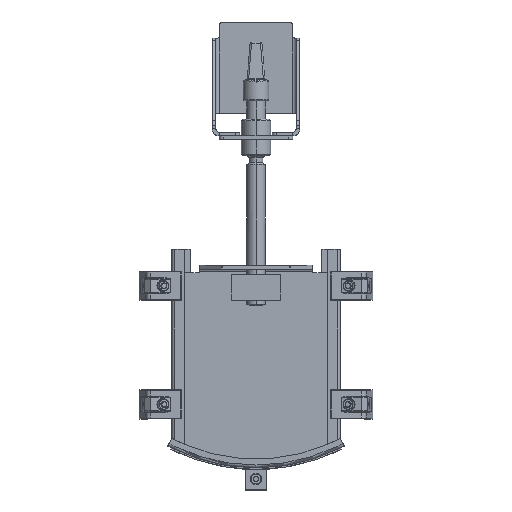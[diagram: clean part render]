
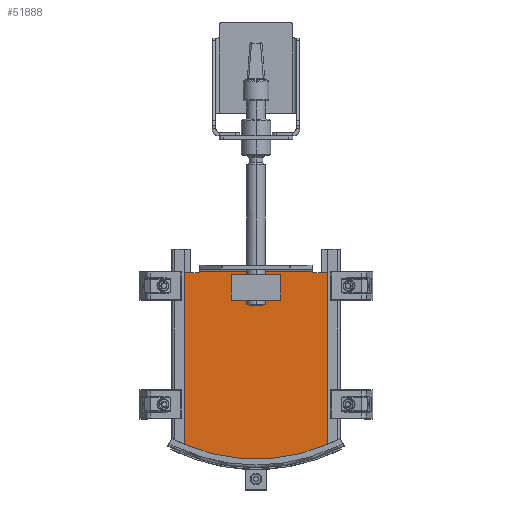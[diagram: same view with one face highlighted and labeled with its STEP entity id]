
A CAD part, top view. The second image highlights one B-rep face of the part: STEP entity #51888.
In plain terms, the highlighted planar face has unit normal (0, 0, 1).
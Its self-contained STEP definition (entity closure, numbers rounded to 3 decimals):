
#1576 = VECTOR ( 'NONE', #30494, 1000. ) ;
#1692 = CARTESIAN_POINT ( 'NONE',  ( -97.95, 20.432, 33. ) ) ;
#2342 = CARTESIAN_POINT ( 'NONE',  ( 79., 255., 33. ) ) ;
#2870 = VECTOR ( 'NONE', #34354, 1000. ) ;
#3950 = AXIS2_PLACEMENT_3D ( 'NONE', #37247, #8624, #20285 ) ;
#4101 = AXIS2_PLACEMENT_3D ( 'NONE', #44473, #19209, #36182 ) ;
#4748 = CARTESIAN_POINT ( 'NONE',  ( 34., 252.5, 33. ) ) ;
#5162 = VERTEX_POINT ( 'NONE', #2342 ) ;
#5836 = LINE ( 'NONE', #17994, #43103 ) ;
#6379 = LINE ( 'NONE', #36059, #33499 ) ;
#7123 = VERTEX_POINT ( 'NONE', #29259 ) ;
#7454 = DIRECTION ( 'NONE',  ( 0., 0., -1. ) ) ;
#8572 = ORIENTED_EDGE ( 'NONE', *, *, #29773, .T. ) ;
#8624 = DIRECTION ( 'NONE',  ( 0., 0., 1. ) ) ;
#9012 = ORIENTED_EDGE ( 'NONE', *, *, #29706, .T. ) ;
#9490 = DIRECTION ( 'NONE',  ( 0., -1., 0. ) ) ;
#9756 = LINE ( 'NONE', #25555, #40378 ) ;
#10411 = LINE ( 'NONE', #41214, #47774 ) ;
#10517 = EDGE_CURVE ( 'NONE', #26539, #23869, #29955, .T. ) ;
#10713 = EDGE_CURVE ( 'NONE', #34742, #26539, #6379, .T. ) ;
#11028 = VERTEX_POINT ( 'NONE', #35920 ) ;
#11040 = EDGE_LOOP ( 'NONE', ( #50951, #44176, #44815, #23680 ) ) ;
#11878 = DIRECTION ( 'NONE',  ( 0., 0., -1. ) ) ;
#15300 = FACE_OUTER_BOUND ( 'NONE', #48183, .T. ) ;
#15943 = VECTOR ( 'NONE', #41522, 1000. ) ;
#16713 = CARTESIAN_POINT ( 'NONE',  ( -79., 255., 33. ) ) ;
#17994 = CARTESIAN_POINT ( 'NONE',  ( 98.172, 255., 33. ) ) ;
#18341 = LINE ( 'NONE', #48022, #27589 ) ;
#18900 = FACE_BOUND ( 'NONE', #11040, .T. ) ;
#19209 = DIRECTION ( 'NONE',  ( 0., 0., 1. ) ) ;
#20285 = DIRECTION ( 'NONE',  ( 1., 0., 0. ) ) ;
#20891 = ORIENTED_EDGE ( 'NONE', *, *, #54425, .T. ) ;
#21155 = EDGE_CURVE ( 'NONE', #5162, #41817, #21691, .T. ) ;
#21292 = LINE ( 'NONE', #46298, #2870 ) ;
#21691 = CIRCLE ( 'NONE', #32387, 2. ) ;
#23680 = ORIENTED_EDGE ( 'NONE', *, *, #10713, .F. ) ;
#23869 = VERTEX_POINT ( 'NONE', #50433 ) ;
#23876 = CARTESIAN_POINT ( 'NONE',  ( -34., 252.5, 33. ) ) ;
#23881 = CARTESIAN_POINT ( 'NONE',  ( 97.95, 20.432, 33. ) ) ;
#24225 = EDGE_CURVE ( 'NONE', #43888, #34742, #10411, .T. ) ;
#25555 = CARTESIAN_POINT ( 'NONE',  ( 97.95, 25.856, 33. ) ) ;
#25615 = EDGE_CURVE ( 'NONE', #42391, #50273, #44350, .T. ) ;
#25817 = CARTESIAN_POINT ( 'NONE',  ( -34., 252.5, 33. ) ) ;
#26099 = CARTESIAN_POINT ( 'NONE',  ( 77., 257., 33. ) ) ;
#26539 = VERTEX_POINT ( 'NONE', #28735 ) ;
#27589 = VECTOR ( 'NONE', #51333, 1000. ) ;
#28735 = CARTESIAN_POINT ( 'NONE',  ( 34., 217.5, 33. ) ) ;
#29259 = CARTESIAN_POINT ( 'NONE',  ( 97.95, 255., 33. ) ) ;
#29285 = DIRECTION ( 'NONE',  ( 1., 0., 0. ) ) ;
#29654 = CARTESIAN_POINT ( 'NONE',  ( 79., 257., 33. ) ) ;
#29706 = EDGE_CURVE ( 'NONE', #50273, #11028, #31183, .T. ) ;
#29773 = EDGE_CURVE ( 'NONE', #46643, #39068, #36880, .T. ) ;
#29955 = LINE ( 'NONE', #4748, #1576 ) ;
#30494 = DIRECTION ( 'NONE',  ( 0., 1., 0. ) ) ;
#31183 = LINE ( 'NONE', #31468, #45673 ) ;
#31468 = CARTESIAN_POINT ( 'NONE',  ( -98.172, 255., 33. ) ) ;
#31788 = ORIENTED_EDGE ( 'NONE', *, *, #21155, .T. ) ;
#32387 = AXIS2_PLACEMENT_3D ( 'NONE', #29654, #11878, #41624 ) ;
#33499 = VECTOR ( 'NONE', #29285, 1000. ) ;
#33725 = CARTESIAN_POINT ( 'NONE',  ( -34., 217.5, 33. ) ) ;
#33753 = ORIENTED_EDGE ( 'NONE', *, *, #42729, .F. ) ;
#34354 = DIRECTION ( 'NONE',  ( 1., 0., 0. ) ) ;
#34742 = VERTEX_POINT ( 'NONE', #33725 ) ;
#35871 = PLANE ( 'NONE',  #3950 ) ;
#35920 = CARTESIAN_POINT ( 'NONE',  ( -97.95, 255., 33. ) ) ;
#36059 = CARTESIAN_POINT ( 'NONE',  ( -34., 217.5, 33. ) ) ;
#36182 = DIRECTION ( 'NONE',  ( 1., 0., 0. ) ) ;
#36509 = EDGE_CURVE ( 'NONE', #23869, #43888, #54201, .T. ) ;
#36880 = CIRCLE ( 'NONE', #4101, 245. ) ;
#37247 = CARTESIAN_POINT ( 'NONE',  ( -105., 25.856, 33. ) ) ;
#39068 = VERTEX_POINT ( 'NONE', #23881 ) ;
#40378 = VECTOR ( 'NONE', #9490, 1000. ) ;
#41214 = CARTESIAN_POINT ( 'NONE',  ( -34., 252.5, 33. ) ) ;
#41522 = DIRECTION ( 'NONE',  ( -1., 0., 0. ) ) ;
#41624 = DIRECTION ( 'NONE',  ( 1., 0., 0. ) ) ;
#41817 = VERTEX_POINT ( 'NONE', #26099 ) ;
#42357 = DIRECTION ( 'NONE',  ( 1., 0., 0. ) ) ;
#42391 = VERTEX_POINT ( 'NONE', #43962 ) ;
#42729 = EDGE_CURVE ( 'NONE', #7123, #39068, #9756, .T. ) ;
#43103 = VECTOR ( 'NONE', #43253, 1000. ) ;
#43253 = DIRECTION ( 'NONE',  ( -1., 0., 0. ) ) ;
#43372 = DIRECTION ( 'NONE',  ( -1., 0., 0. ) ) ;
#43888 = VERTEX_POINT ( 'NONE', #23876 ) ;
#43962 = CARTESIAN_POINT ( 'NONE',  ( -77., 257., 33. ) ) ;
#44176 = ORIENTED_EDGE ( 'NONE', *, *, #36509, .F. ) ;
#44350 = CIRCLE ( 'NONE', #51385, 2. ) ;
#44473 = CARTESIAN_POINT ( 'NONE',  ( 0., 245., 33. ) ) ;
#44815 = ORIENTED_EDGE ( 'NONE', *, *, #10517, .F. ) ;
#45437 = CARTESIAN_POINT ( 'NONE',  ( -79., 257., 33. ) ) ;
#45673 = VECTOR ( 'NONE', #43372, 1000. ) ;
#46298 = CARTESIAN_POINT ( 'NONE',  ( -105., 257., 33. ) ) ;
#46643 = VERTEX_POINT ( 'NONE', #1692 ) ;
#47574 = ORIENTED_EDGE ( 'NONE', *, *, #49823, .F. ) ;
#47774 = VECTOR ( 'NONE', #53637, 1000. ) ;
#48022 = CARTESIAN_POINT ( 'NONE',  ( -97.95, -42.001, 33. ) ) ;
#48183 = EDGE_LOOP ( 'NONE', ( #33753, #20891, #31788, #47574, #52240, #9012, #49521, #8572 ) ) ;
#49521 = ORIENTED_EDGE ( 'NONE', *, *, #50447, .T. ) ;
#49823 = EDGE_CURVE ( 'NONE', #42391, #41817, #21292, .T. ) ;
#50273 = VERTEX_POINT ( 'NONE', #16713 ) ;
#50433 = CARTESIAN_POINT ( 'NONE',  ( 34., 252.5, 33. ) ) ;
#50447 = EDGE_CURVE ( 'NONE', #11028, #46643, #18341, .T. ) ;
#50951 = ORIENTED_EDGE ( 'NONE', *, *, #24225, .F. ) ;
#51333 = DIRECTION ( 'NONE',  ( 0., -1., 0. ) ) ;
#51385 = AXIS2_PLACEMENT_3D ( 'NONE', #45437, #7454, #42357 ) ;
#51888 = ADVANCED_FACE ( 'NONE', ( #15300, #18900 ), #35871, .T. ) ;
#52240 = ORIENTED_EDGE ( 'NONE', *, *, #25615, .T. ) ;
#53637 = DIRECTION ( 'NONE',  ( 0., -1., 0. ) ) ;
#54201 = LINE ( 'NONE', #25817, #15943 ) ;
#54425 = EDGE_CURVE ( 'NONE', #7123, #5162, #5836, .T. ) ;
